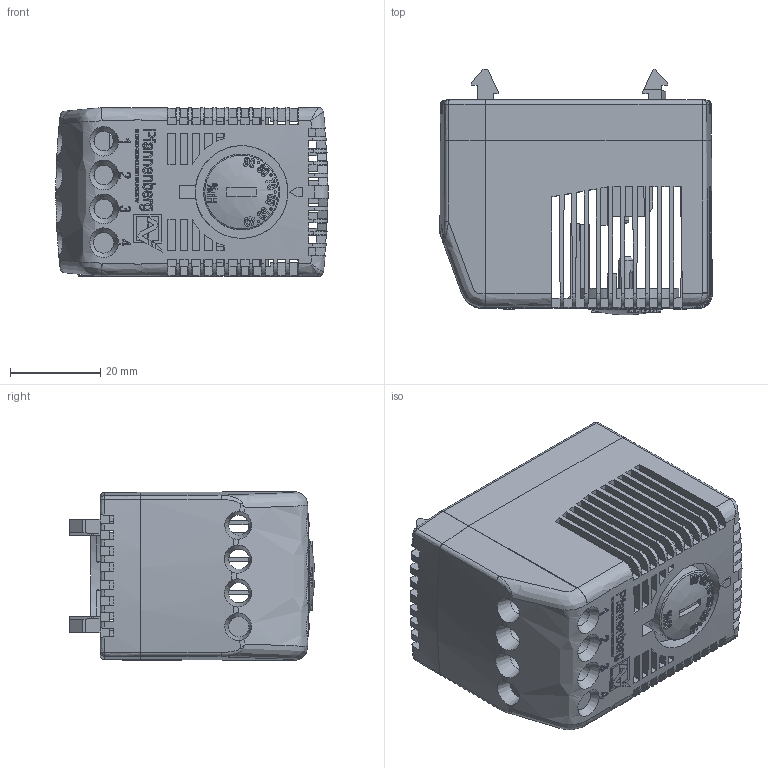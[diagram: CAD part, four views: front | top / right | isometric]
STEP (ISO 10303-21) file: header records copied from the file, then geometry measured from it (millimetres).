
FILE_DESCRIPTION (( 'STEP AP214' ), '1' );
FILE_NAME ('FLZ 600.STEP', '2017-06-22T09:17:58', ( '' ), ( '' ), 'SwSTEP 2.0', 'SolidWorks 2015', '' );
FILE_SCHEMA (( 'AUTOMOTIVE_DESIGN' ));
Length unit declared in the file: millimetre
Products named in the file (1): FLZ 600
Bounding box: 60.24 x 54.29 x 37.3 mm (x, y, z)
Volume: 25272.8 mm3; surface area: 34827.5 mm2
Topology: 31 solids, 31 shells, 2346 faces, 6698 edges, 4432 vertices
Faces by surface type: plane 1483, bspline 746, cone 77, cylinder 40
Full cylindrical faces by diameter (mm): 0.5 x5, 4.5 x3, 16.8 x1
Entity records: 144147 total; most frequent: CARTESIAN_POINT 63398, ORIENTED_EDGE 13292, DIRECTION 7829, EDGE_CURVE 6646, VERTEX_POINT 4421, LINE 4209, VECTOR 4209, EDGE_LOOP 2571
